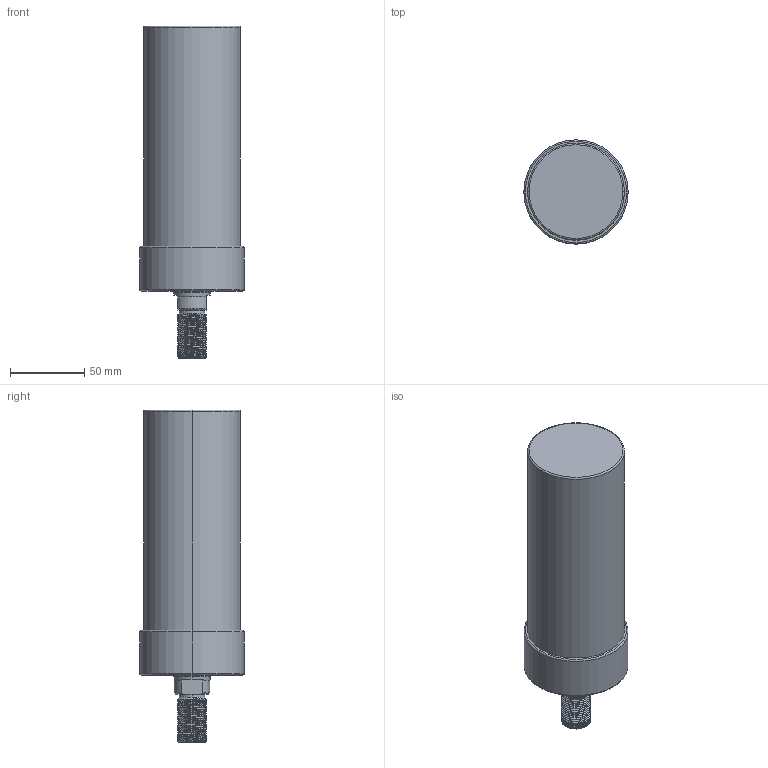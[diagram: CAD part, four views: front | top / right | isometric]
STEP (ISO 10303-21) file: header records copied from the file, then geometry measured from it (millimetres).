
FILE_DESCRIPTION (( 'STEP AP203' ), '1' );
FILE_NAME ('CLLU-065GT-115.STEP', '2020-01-16T02:15:31', ( '' ), ( '' ), 'SwSTEP 2.0', 'SolidWorks 2015', '' );
FILE_SCHEMA (( 'CONFIG_CONTROL_DESIGN' ));
Length unit declared in the file: millimetre
Products named in the file (1): CLLU-065GT-115
Bounding box: 70 x 70 x 223 mm (x, y, z)
Volume: 619333 mm3; surface area: 49633.1 mm2
Topology: 1 solids, 1 shells, 106 faces, 269 edges, 166 vertices
Faces by surface type: cylinder 60, cone 26, plane 12, torus 6, bspline 2
Entity records: 5376 total; most frequent: CARTESIAN_POINT 2999, ORIENTED_EDGE 522, DIRECTION 451, EDGE_CURVE 261, AXIS2_PLACEMENT_3D 180, VERTEX_POINT 166, EDGE_LOOP 115, FACE_OUTER_BOUND 106
